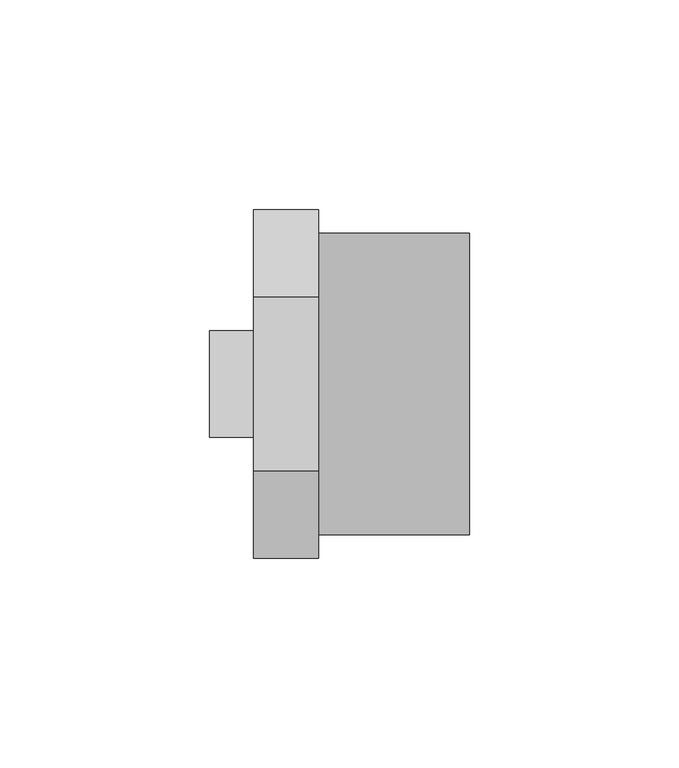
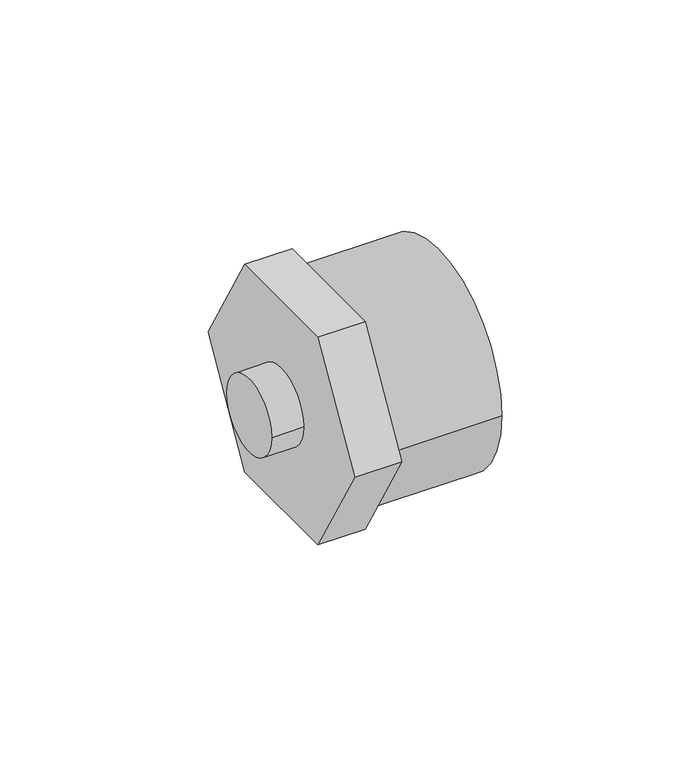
"""IFC4 building model written with IfcOpenShell, lengths in millimetres: pipe fitting geometry, 01101006_ : Uniões de redução F/M."""

from ifc_helpers import new_model, si_unit, point, frame, origin, origin_2d, place, context, project, spatial, polyline, circle_curve, trimmed, segment, composite_curve, outline, extrude, source, transform, mapped, element, save


def pipe_fitting_f38051de(model_context):
    return source(origin(), model_context, "Body", "SweptSolid", [
        extrude(outline(composite_curve([segment(trimmed(circle_curve(origin_2d(), 12.7), [point((12.7, 0.0))], [point((-12.7, 0.0))], False, "CARTESIAN"), True, "CONTINUOUS"), segment(trimmed(circle_curve(origin_2d(), 12.7), [point((-12.7, 0.0))], [point((12.7, 0.0))], False, "CARTESIAN"), True, "CONTINUOUS")], self_intersect=False)), frame((0.0, 0.0, 0.0), z_axis=(1.0, 0.0, 0.0), x_axis=(0.0, 1.0, 0.0)), (0.0, 0.0, 1.0), 10.5),
        extrude(outline(polyline([(-20.7846097, 36.0), (20.7846097, 36.0), (41.5692194, 0.0), (20.7846097, -36.0), (-20.7846097, -36.0), (-41.5692194, 0.0), (-20.7846097, 36.0)])), frame((10.5, 0.0, 0.0), z_axis=(1.0, 0.0, 0.0), x_axis=(0.0, 1.0, 0.0)), (0.0, 0.0, 1.0), 15.5),
        extrude(outline(composite_curve([segment(trimmed(circle_curve(origin_2d(), 36.0), [point((-36.0, 0.0))], [point((36.0, 0.0))], False, "CARTESIAN"), True, "CONTINUOUS"), segment(trimmed(circle_curve(origin_2d(), 36.0), [point((36.0, 0.0))], [point((-36.0, 0.0))], False, "CARTESIAN"), True, "CONTINUOUS")], self_intersect=False)), frame((26.0, 0.0, 0.0), z_axis=(1.0, 0.0, 0.0), x_axis=(0.0, 1.0, 0.0)), (0.0, 0.0, 1.0), 36.0),
    ])


if __name__ == "__main__":
    model = new_model("IFC4")
    model_context = context("Model", 3, world=origin())
    ifc_project = project(units=[si_unit("LENGTHUNIT", "METRE", prefix="MILLI")], contexts=[model_context])
    site = spatial("IfcSite", under=ifc_project)
    building = spatial("IfcBuilding", under=site)
    placement = place(None, origin())
    pipe_fitting_shape = pipe_fitting_f38051de(model_context)
    element("IfcPipeFitting", 1, ObjectType="01101006_ : Uniões de redução F/M", at=placement, inside=building, context=model_context, shape_type="MappedRepresentation", body=[
        mapped(pipe_fitting_shape, transform((0.0, 0.0, 0.0), x_axis=(1.0, 0.0, 0.0), y_axis=(0.0, 1.0, 0.0), z_axis=(0.0, 0.0, 1.0))),
    ])
    save(model, "model.ifc")
